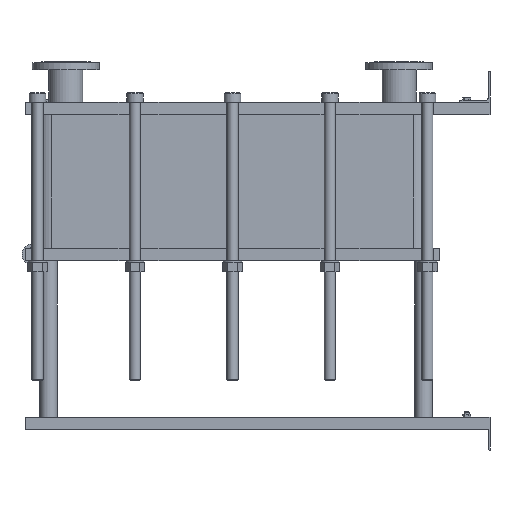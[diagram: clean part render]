
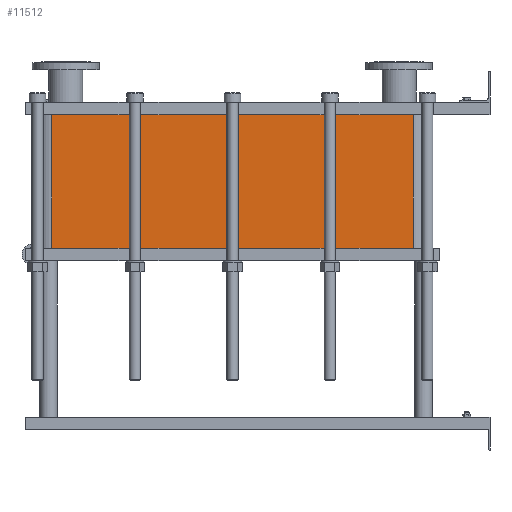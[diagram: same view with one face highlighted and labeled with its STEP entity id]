
A CAD part, left-side view. The second image highlights one B-rep face of the part: STEP entity #11512.
In plain terms, the highlighted planar face has unit normal (-1, 0, 0).
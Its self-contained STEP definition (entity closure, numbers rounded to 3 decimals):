
#1129=LINE('',#23232,#2102);
#1130=LINE('',#23236,#2103);
#1131=LINE('',#23238,#2104);
#1132=LINE('',#23239,#2105);
#2102=VECTOR('',#15887,10.);
#2103=VECTOR('',#15892,10.);
#2104=VECTOR('',#15893,10.);
#2105=VECTOR('',#15894,10.);
#3267=FACE_OUTER_BOUND('',#4093,.T.);
#4093=EDGE_LOOP('',(#10103,#10104,#10105,#10106));
#5642=VERTEX_POINT('',#23229);
#5643=VERTEX_POINT('',#23231);
#5644=VERTEX_POINT('',#23235);
#5645=VERTEX_POINT('',#23237);
#7159=EDGE_CURVE('',#5643,#5642,#1129,.T.);
#7161=EDGE_CURVE('',#5642,#5644,#1130,.T.);
#7162=EDGE_CURVE('',#5645,#5644,#1131,.T.);
#7163=EDGE_CURVE('',#5645,#5643,#1132,.T.);
#10103=ORIENTED_EDGE('',*,*,#7161,.T.);
#10104=ORIENTED_EDGE('',*,*,#7162,.F.);
#10105=ORIENTED_EDGE('',*,*,#7163,.T.);
#10106=ORIENTED_EDGE('',*,*,#7159,.T.);
#10857=PLANE('',#12751);
#11512=ADVANCED_FACE('',(#3267),#10857,.T.);
#12751=AXIS2_PLACEMENT_3D('',#23234,#15890,#15891);
#15887=DIRECTION('',(0.,0.,-1.));
#15890=DIRECTION('center_axis',(-1.,0.,0.));
#15891=DIRECTION('ref_axis',(0.,1.,0.));
#15892=DIRECTION('',(0.,-1.,0.));
#15893=DIRECTION('',(0.,0.,-1.));
#15894=DIRECTION('',(0.,1.,0.));
#23229=CARTESIAN_POINT('',(-200.,1414.,-431.25));
#23231=CARTESIAN_POINT('',(-200.,1414.,0.));
#23232=CARTESIAN_POINT('',(-200.,1414.,0.));
#23234=CARTESIAN_POINT('Origin',(-200.,248.,0.));
#23235=CARTESIAN_POINT('',(-200.,248.,-431.25));
#23236=CARTESIAN_POINT('',(-200.,539.5,-431.25));
#23237=CARTESIAN_POINT('',(-200.,248.,0.));
#23238=CARTESIAN_POINT('',(-200.,248.,0.));
#23239=CARTESIAN_POINT('',(-200.,248.,0.));
